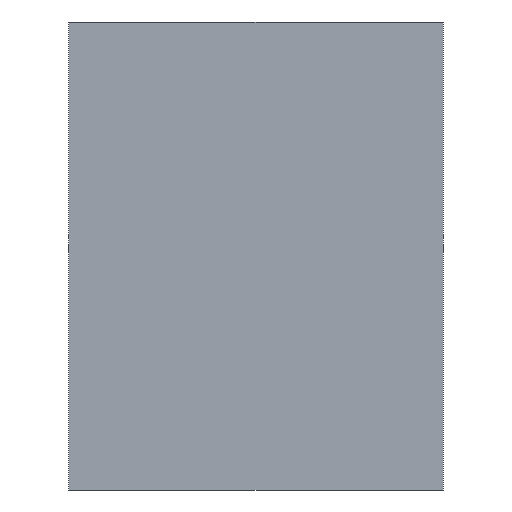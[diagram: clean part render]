
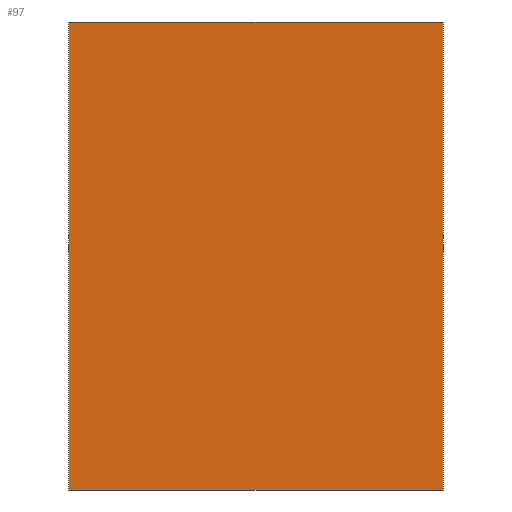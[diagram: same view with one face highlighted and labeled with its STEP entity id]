
A CAD part, front view. The second image highlights one B-rep face of the part: STEP entity #97.
In plain terms, the highlighted planar face has unit normal (0, -1, 0).
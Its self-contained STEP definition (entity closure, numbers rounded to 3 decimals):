
#21 = EDGE_CURVE('',#22,#24,#26,.T.);
#22 = VERTEX_POINT('',#23);
#23 = CARTESIAN_POINT('',(-11.,-17.,120.5));
#24 = VERTEX_POINT('',#25);
#25 = CARTESIAN_POINT('',(-11.,-17.,148.));
#26 = LINE('',#27,#28);
#27 = CARTESIAN_POINT('',(-11.,-17.,120.5));
#28 = VECTOR('',#29,1.);
#29 = DIRECTION('',(0.,0.,1.));
#61 = EDGE_CURVE('',#62,#64,#66,.T.);
#62 = VERTEX_POINT('',#63);
#63 = CARTESIAN_POINT('',(11.,-17.,120.5));
#64 = VERTEX_POINT('',#65);
#65 = CARTESIAN_POINT('',(11.,-17.,148.));
#66 = LINE('',#67,#68);
#67 = CARTESIAN_POINT('',(11.,-17.,120.5));
#68 = VECTOR('',#69,1.);
#69 = DIRECTION('',(0.,0.,1.));
#97 = ADVANCED_FACE('',(#98),#114,.F.);
#98 = FACE_BOUND('',#99,.F.);
#99 = EDGE_LOOP('',(#100,#106,#107,#113));
#100 = ORIENTED_EDGE('',*,*,#101,.F.);
#101 = EDGE_CURVE('',#22,#62,#102,.T.);
#102 = LINE('',#103,#104);
#103 = CARTESIAN_POINT('',(-11.,-17.,120.5));
#104 = VECTOR('',#105,1.);
#105 = DIRECTION('',(1.,0.,0.));
#106 = ORIENTED_EDGE('',*,*,#21,.T.);
#107 = ORIENTED_EDGE('',*,*,#108,.T.);
#108 = EDGE_CURVE('',#24,#64,#109,.T.);
#109 = LINE('',#110,#111);
#110 = CARTESIAN_POINT('',(-11.,-17.,148.));
#111 = VECTOR('',#112,1.);
#112 = DIRECTION('',(1.,0.,0.));
#113 = ORIENTED_EDGE('',*,*,#61,.F.);
#114 = PLANE('',#115);
#115 = AXIS2_PLACEMENT_3D('',#116,#117,#118);
#116 = CARTESIAN_POINT('',(-11.,-17.,120.5));
#117 = DIRECTION('',(0.,1.,0.));
#118 = DIRECTION('',(0.,0.,1.));
